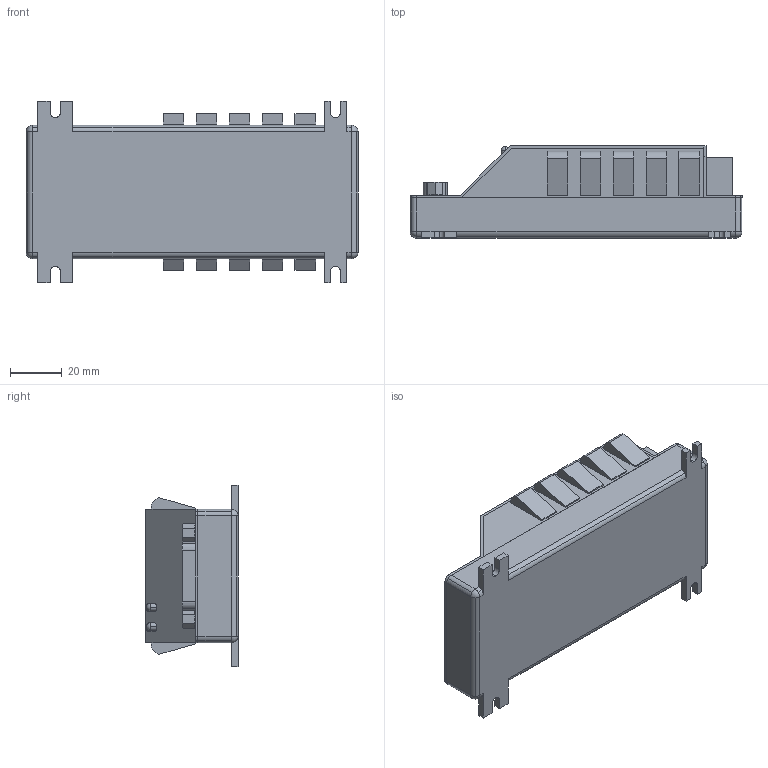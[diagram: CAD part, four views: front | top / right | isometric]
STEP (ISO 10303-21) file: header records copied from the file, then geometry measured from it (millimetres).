
FILE_DESCRIPTION(('STEP AP214'),'1');
FILE_NAME('Z:\toNS\tmp0.step',' ',(' '),(' '),'XStep 1.0',' ',' ');
FILE_SCHEMA(('automotive_design'));
Length unit declared in the file: millimetre
Products named in the file (57): 18; 25; 10; 31; 30; 27; 26; NONE; 3; 1
Bounding box: 128 x 35.5 x 70 mm (x, y, z)
Volume: 202747.6 mm3; surface area: 61820.6 mm2
Topology: 57 solids, 57 shells, 612 faces, 1458 edges, 956 vertices
Faces by surface type: plane 294, cylinder 266, cone 30, bspline 14, sphere 8
Entity records: 29624 total; most frequent: CARTESIAN_POINT 8223, DIRECTION 3016, ORIENTED_EDGE 2900, EDGE_CURVE 1450, AXIS2_PLACEMENT_3D 1121, VERTEX_POINT 956, STYLED_ITEM 901, PRESENTATION_STYLE_ASSIGNMENT 901
